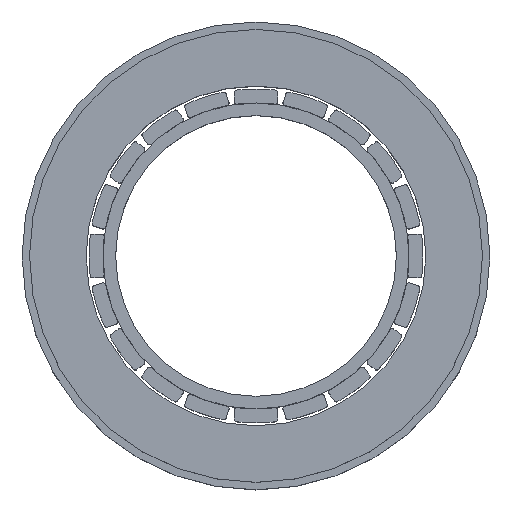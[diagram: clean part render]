
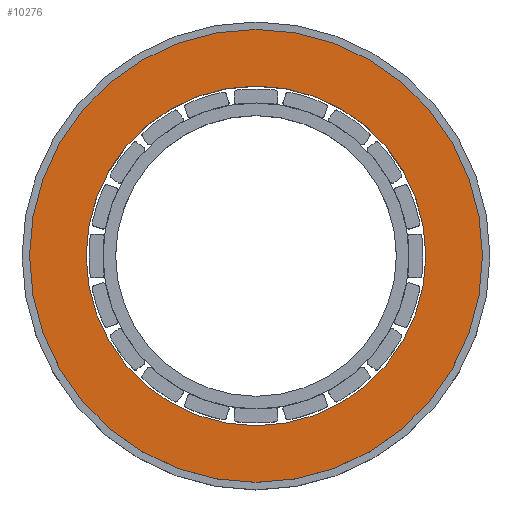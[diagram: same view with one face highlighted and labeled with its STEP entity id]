
A CAD part, top view. The second image highlights one B-rep face of the part: STEP entity #10276.
In plain terms, the highlighted planar face has unit normal (0, 0, 1).
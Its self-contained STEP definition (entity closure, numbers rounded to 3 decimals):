
#10221=CARTESIAN_POINT('',(0.,24.2,11.5));
#10222=VERTEX_POINT('',#10221);
#10229=CARTESIAN_POINT('',(0.,0.,11.5));
#10230=DIRECTION('',(0.,1.,0.));
#10231=DIRECTION('',(0.,0.,-1.));
#10232=AXIS2_PLACEMENT_3D('',#10229,#10231,#10230);
#10233=CIRCLE('',#10232,24.2);
#10234=EDGE_CURVE('',#10222,#10222,#10233,.T.);
#10246=CARTESIAN_POINT('',(0.,18.15,11.5));
#10247=VERTEX_POINT('',#10246);
#10254=CARTESIAN_POINT('',(0.,0.,11.5));
#10255=DIRECTION('',(0.,1.,0.));
#10256=DIRECTION('',(0.,0.,1.));
#10257=AXIS2_PLACEMENT_3D('',#10254,#10256,#10255);
#10258=CIRCLE('',#10257,18.15);
#10259=EDGE_CURVE('',#10247,#10247,#10258,.T.);
#10265=CARTESIAN_POINT('',(0.,-6.484,11.5));
#10266=DIRECTION('',(0.,1.,0.));
#10267=DIRECTION('',(0.,0.,1.));
#10268=AXIS2_PLACEMENT_3D('',#10265,#10267,#10266);
#10269=PLANE('',#10268);
#10270=ORIENTED_EDGE('',*,*,#10234,.F.);
#10271=EDGE_LOOP('',(#10270));
#10272=FACE_OUTER_BOUND('',#10271,.T.);
#10273=ORIENTED_EDGE('',*,*,#10259,.F.);
#10274=EDGE_LOOP('',(#10273));
#10275=FACE_BOUND('',#10274,.T.);
#10276=ADVANCED_FACE('',(#10272,#10275),#10269,.T.);
